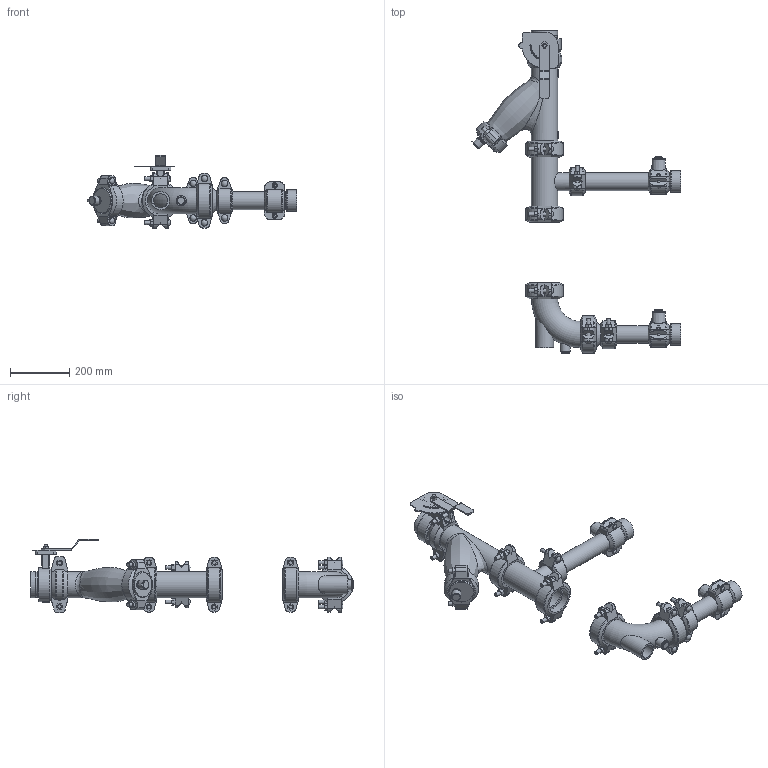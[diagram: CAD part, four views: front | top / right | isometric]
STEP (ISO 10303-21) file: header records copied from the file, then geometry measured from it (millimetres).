
FILE_DESCRIPTION(/* description */ ('VIC SVI DOUBLE COIL AHU DROP LOW PROFILE SERIES 385H (OGSxFPT)','CAx-IF Rec.Pracs.---Representation and Presentation of Product Manufacturing Information (PMI)---4.0---2014-10-13'),/* implementation_level */ '2;1');
FILE_NAME(/* name */ 'C:\Users\Vjadhav\AppData\Roaming\Autodesk\ApplicationPlugins\Victaulic.Temp\A526\Victaulic_IPS_SVI_Double Coil_Low Profile_Series 385H (OGSxFPT)_03.0x02.0 (80x50).stp',/* time_stamp */ '2021-03-17T15:41:24+05:00',/* author */ ('Vjadhav'),/* organization */ ('Victaulic'),/* preprocessor_version */ 'ST-DEVELOPER v17.2',/* originating_system */ 'Autodesk Inventor 2019',/* authorisation */ '');
FILE_SCHEMA (('AP242_MANAGED_MODEL_BASED_3D_ENGINEERING_MIM_LF { 1 0 10303 442 1 1 4 }'));
Length unit declared in the file: inch
Products named in the file (16): 385H-03.0x02.0; Pipe-02.0; 050-03.0x02.0; 025-03.0x02.0; 177N-03.0; 732-03.0; 732-03.0_1; 07-03.0; 732-03.0_2; 107N-03.0; 761-03.0; 177N-02.0; Pipe_(10 1/4")-02.0; 072-02.0x0.75; 080-02.0; 100G-03.0
Assembly tree (21 placements, depth 3):
  385H-03.0x02.0
    080-02.0  x2
    072-02.0x0.75  x2
    Pipe-02.0
    177N-02.0  x2
    050-03.0x02.0
    177N-03.0  x4
    025-03.0x02.0
    732-03.0
      732-03.0_1
      07-03.0
      732-03.0_2
    107N-03.0
    761-03.0
    Pipe_(10 1/4")-02.0
    100G-03.0
Bounding box: 708.1 x 1091.95 x 249.43 mm (x, y, z)
Volume: 6342405 mm3; surface area: 1571761.5 mm2
Topology: 20 solids, 23 shells, 1219 faces, 3318 edges, 2211 vertices
Faces by surface type: plane 666, cylinder 402, torus 52, cone 47, bspline 36, sphere 16
Full cylindrical faces by diameter (mm): 4.826 x10, 7.62 x8, 8.636 x4, 10.922 x2, 11.43 x4, 12.7 x20, 17.78 x4, 20.93 x3, 22.225 x16, 22.86 x1, 25.4 x2, 26.67 x6, 29.21 x1, 30.48 x1, 34.29 x1, 47.625 x2, 48.26 x1, 52.502 x6, 55.118 x1, 57.15 x8, 60.325 x22, 60.96 x1, 70.104 x1, 73.025 x2, 74.524 x1, 74.676 x1, 76.2 x5, 77.927 x5, 82.55 x1, 84.938 x11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
Entity records: 28877 total; most frequent: CARTESIAN_POINT 7989, DIRECTION 4256, ORIENTED_EDGE 3998, EDGE_CURVE 1999, AXIS2_PLACEMENT_3D 1634, VERTEX_POINT 1347, LINE 988, VECTOR 988
